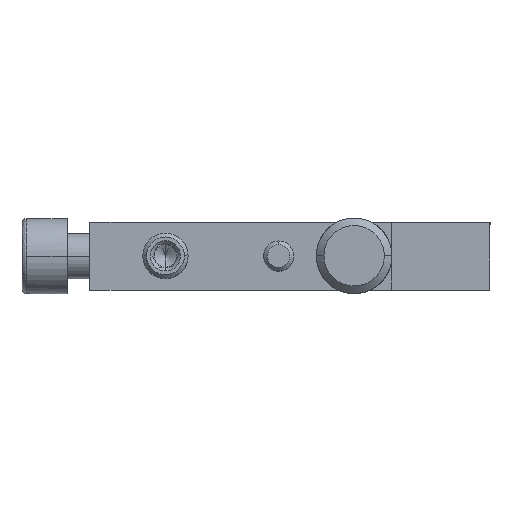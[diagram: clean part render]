
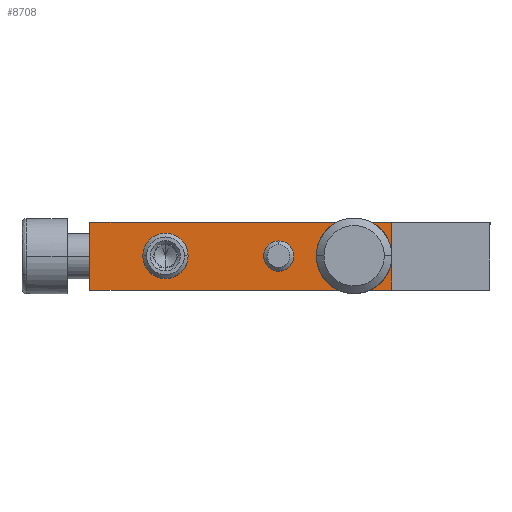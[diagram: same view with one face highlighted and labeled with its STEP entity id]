
A CAD part, top view. The second image highlights one B-rep face of the part: STEP entity #8708.
In plain terms, the highlighted planar face has unit normal (0, 0, 1).
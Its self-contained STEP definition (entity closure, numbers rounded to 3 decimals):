
#634 = CARTESIAN_POINT ( 'NONE',  ( -7., -8.75, 9. ) ) ;
#649 = DIRECTION ( 'NONE',  ( 0., 0., -1. ) ) ;
#650 = CARTESIAN_POINT ( 'NONE',  ( -10., -8.75, 9. ) ) ;
#651 = AXIS2_PLACEMENT_3D ( 'NONE', #650, #649, #710 ) ;
#652 = CIRCLE ( 'NONE', #651, 3. ) ;
#709 = CARTESIAN_POINT ( 'NONE',  ( -13., -8.75, 9. ) ) ;
#710 = DIRECTION ( 'NONE',  ( -1., 0., 0. ) ) ;
#2513 = DIRECTION ( 'NONE',  ( 0., -1., 0. ) ) ;
#2514 = DIRECTION ( 'NONE',  ( 0., 0., -1. ) ) ;
#2515 = CARTESIAN_POINT ( 'NONE',  ( 5., -8.75, 9. ) ) ;
#2516 = AXIS2_PLACEMENT_3D ( 'NONE', #2515, #2514, #2513 ) ;
#2517 = CIRCLE ( 'NONE', #2516, 2. ) ;
#2548 = DIRECTION ( 'NONE',  ( 0., 1., 0. ) ) ;
#2549 = DIRECTION ( 'NONE',  ( 0., 0., -1. ) ) ;
#2550 = AXIS2_PLACEMENT_3D ( 'NONE', #2556, #2549, #2548 ) ;
#2551 = CIRCLE ( 'NONE', #2550, 2.5 ) ;
#2556 = CARTESIAN_POINT ( 'NONE',  ( 15., -8.75, 9. ) ) ;
#2564 = DIRECTION ( 'NONE',  ( -1., 0., 0. ) ) ;
#2565 = DIRECTION ( 'NONE',  ( 0., 0., -1. ) ) ;
#2566 = AXIS2_PLACEMENT_3D ( 'NONE', #2571, #2565, #2564 ) ;
#2567 = CIRCLE ( 'NONE', #2566, 3. ) ;
#2571 = CARTESIAN_POINT ( 'NONE',  ( -10., -8.75, 9. ) ) ;
#2601 = DIRECTION ( 'NONE',  ( 0., 1., 0. ) ) ;
#2602 = DIRECTION ( 'NONE',  ( 0., 0., -1. ) ) ;
#2603 = CARTESIAN_POINT ( 'NONE',  ( 15., -8.75, 9. ) ) ;
#2604 = AXIS2_PLACEMENT_3D ( 'NONE', #2603, #2602, #2601 ) ;
#2605 = CIRCLE ( 'NONE', #2604, 2.5 ) ;
#2612 = CARTESIAN_POINT ( 'NONE',  ( 5., -6.75, 9. ) ) ;
#2691 = CARTESIAN_POINT ( 'NONE',  ( 15., -11.25, 9. ) ) ;
#2703 = CARTESIAN_POINT ( 'NONE',  ( 5., -10.75, 9. ) ) ;
#2711 = CARTESIAN_POINT ( 'NONE',  ( -20., -4.25, 9. ) ) ;
#2712 = CARTESIAN_POINT ( 'NONE',  ( -20., -13.25, 9. ) ) ;
#2713 = DIRECTION ( 'NONE',  ( 0., 1., 0. ) ) ;
#2714 = VECTOR ( 'NONE', #2713, 1000. ) ;
#2715 = CARTESIAN_POINT ( 'NONE',  ( -20., -13.25, 9. ) ) ;
#2716 = LINE ( 'NONE', #2715, #2714 ) ;
#2717 = DIRECTION ( 'NONE',  ( 0., -1., 0. ) ) ;
#2718 = DIRECTION ( 'NONE',  ( 0., 0., 1. ) ) ;
#2719 = CARTESIAN_POINT ( 'NONE',  ( 0., -8.75, 9. ) ) ;
#2720 = AXIS2_PLACEMENT_3D ( 'NONE', #2719, #2718, #2717 ) ;
#2721 = FACE_OUTER_BOUND ( 'NONE', #8717, .T. ) ;
#2722 = FACE_BOUND ( 'NONE', #8714, .T. ) ;
#2723 = FACE_BOUND ( 'NONE', #8711, .T. ) ;
#2724 = FACE_BOUND ( 'NONE', #8733, .T. ) ;
#2730 = PLANE ( 'NONE',  #2720 ) ;
#2737 = CARTESIAN_POINT ( 'NONE',  ( 15., -6.25, 9. ) ) ;
#2801 = DIRECTION ( 'NONE',  ( 0., -1., 0. ) ) ;
#2802 = DIRECTION ( 'NONE',  ( 0., 0., -1. ) ) ;
#2803 = CARTESIAN_POINT ( 'NONE',  ( 5., -8.75, 9. ) ) ;
#2804 = AXIS2_PLACEMENT_3D ( 'NONE', #2803, #2802, #2801 ) ;
#2805 = CIRCLE ( 'NONE', #2804, 2. ) ;
#2817 = DIRECTION ( 'NONE',  ( 1., 0., 0. ) ) ;
#2818 = VECTOR ( 'NONE', #2817, 1000. ) ;
#2819 = CARTESIAN_POINT ( 'NONE',  ( -20., -4.25, 9. ) ) ;
#2820 = LINE ( 'NONE', #2819, #2818 ) ;
#2821 = CARTESIAN_POINT ( 'NONE',  ( 20., -4.25, 9. ) ) ;
#2822 = DIRECTION ( 'NONE',  ( 0., -1., 0. ) ) ;
#2823 = VECTOR ( 'NONE', #2822, 1000. ) ;
#2824 = CARTESIAN_POINT ( 'NONE',  ( 20., -4.25, 9. ) ) ;
#2825 = LINE ( 'NONE', #2824, #2823 ) ;
#2826 = CARTESIAN_POINT ( 'NONE',  ( 20., -13.25, 9. ) ) ;
#2827 = DIRECTION ( 'NONE',  ( -1., 0., 0. ) ) ;
#2828 = VECTOR ( 'NONE', #2827, 1000. ) ;
#2829 = CARTESIAN_POINT ( 'NONE',  ( 20., -13.25, 9. ) ) ;
#2830 = LINE ( 'NONE', #2829, #2828 ) ;
#7434 = VERTEX_POINT ( 'NONE', #634 ) ;
#7463 = EDGE_CURVE ( 'NONE', #7464, #7434, #652, .T. ) ;
#7464 = VERTEX_POINT ( 'NONE', #709 ) ;
#8604 = EDGE_CURVE ( 'NONE', #8685, #8663, #2517, .T. ) ;
#8613 = EDGE_CURVE ( 'NONE', #7434, #7464, #2567, .T. ) ;
#8624 = EDGE_CURVE ( 'NONE', #8691, #8703, #2551, .T. ) ;
#8630 = EDGE_CURVE ( 'NONE', #8703, #8691, #2605, .T. ) ;
#8663 = VERTEX_POINT ( 'NONE', #2612 ) ;
#8685 = VERTEX_POINT ( 'NONE', #2703 ) ;
#8691 = VERTEX_POINT ( 'NONE', #2691 ) ;
#8703 = VERTEX_POINT ( 'NONE', #2737 ) ;
#8708 = ADVANCED_FACE ( 'NONE', ( #2724, #2723, #2722, #2721 ), #2730, .T. ) ;
#8709 = ORIENTED_EDGE ( 'NONE', *, *, #7463, .T. ) ;
#8710 = ORIENTED_EDGE ( 'NONE', *, *, #8613, .T. ) ;
#8711 = EDGE_LOOP ( 'NONE', ( #8712, #8713 ) ) ;
#8712 = ORIENTED_EDGE ( 'NONE', *, *, #8604, .T. ) ;
#8713 = ORIENTED_EDGE ( 'NONE', *, *, #8746, .T. ) ;
#8714 = EDGE_LOOP ( 'NONE', ( #8715, #8716 ) ) ;
#8715 = ORIENTED_EDGE ( 'NONE', *, *, #8630, .T. ) ;
#8716 = ORIENTED_EDGE ( 'NONE', *, *, #8624, .T. ) ;
#8717 = EDGE_LOOP ( 'NONE', ( #8718, #8773, #8776, #8779 ) ) ;
#8718 = ORIENTED_EDGE ( 'NONE', *, *, #8719, .F. ) ;
#8719 = EDGE_CURVE ( 'NONE', #8720, #8721, #2716, .T. ) ;
#8720 = VERTEX_POINT ( 'NONE', #2712 ) ;
#8721 = VERTEX_POINT ( 'NONE', #2711 ) ;
#8733 = EDGE_LOOP ( 'NONE', ( #8709, #8710 ) ) ;
#8746 = EDGE_CURVE ( 'NONE', #8663, #8685, #2805, .T. ) ;
#8773 = ORIENTED_EDGE ( 'NONE', *, *, #8774, .F. ) ;
#8774 = EDGE_CURVE ( 'NONE', #8775, #8720, #2830, .T. ) ;
#8775 = VERTEX_POINT ( 'NONE', #2826 ) ;
#8776 = ORIENTED_EDGE ( 'NONE', *, *, #8777, .F. ) ;
#8777 = EDGE_CURVE ( 'NONE', #8778, #8775, #2825, .T. ) ;
#8778 = VERTEX_POINT ( 'NONE', #2821 ) ;
#8779 = ORIENTED_EDGE ( 'NONE', *, *, #8780, .F. ) ;
#8780 = EDGE_CURVE ( 'NONE', #8721, #8778, #2820, .T. ) ;
